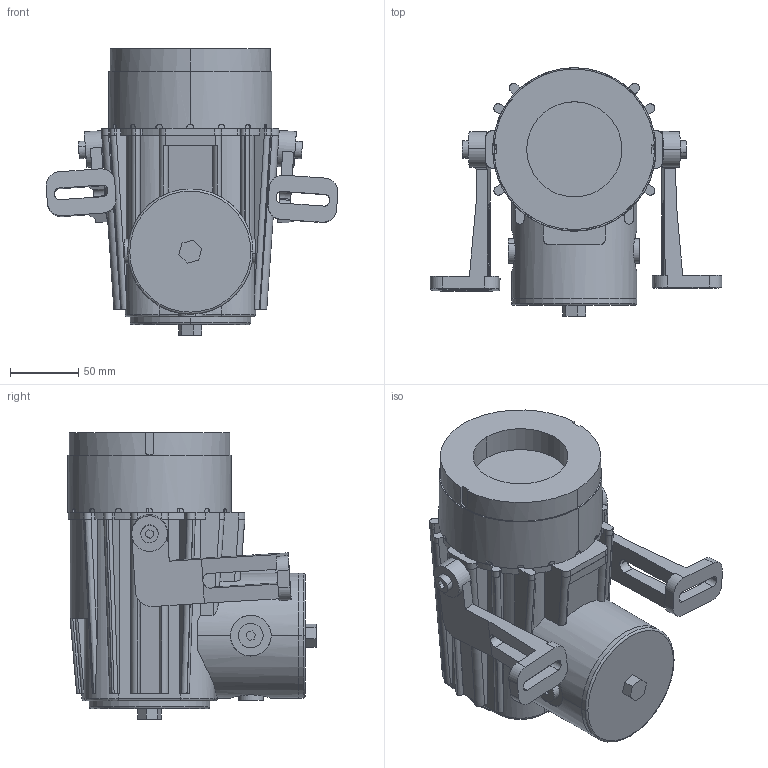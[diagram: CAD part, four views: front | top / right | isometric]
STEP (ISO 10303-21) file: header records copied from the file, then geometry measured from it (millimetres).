
FILE_DESCRIPTION (( 'STEP AP214' ), '1' );
FILE_NAME ('EXPSG-120-100W .STEP', '2010-09-18T01:56:01', ( 'Owner' ), ( 'HOME' ), 'SwSTEP 2.0', 'SolidWorks 2008', '' );
FILE_SCHEMA (( 'AUTOMOTIVE_DESIGN' ));
Length unit declared in the file: inch
Products named in the file (9): EXPSG-120-100W ; Bulb; lens cap; Body; Rt Brace; Side Bolt; Lens; Bolt; Lt Brace
Assembly tree (11 placements, depth 2):
  EXPSG-120-100W 
    Bulb
    Side Bolt  x3
    Lens
    Bolt  x2
    Lt Brace
    lens cap
    Body
    Rt Brace
Bounding box: 214.32 x 182.45 x 210.85 mm (x, y, z)
Volume: 2460520 mm3; surface area: 272725.1 mm2
Topology: 11 solids, 11 shells, 545 faces, 1454 edges, 951 vertices
Faces by surface type: plane 319, cylinder 205, torus 15, cone 4, bspline 2
Entity records: 17406 total; most frequent: CARTESIAN_POINT 4315, ORIENTED_EDGE 2752, DIRECTION 2630, EDGE_CURVE 1376, AXIS2_PLACEMENT_3D 910, VERTEX_POINT 899, LINE 810, VECTOR 810
